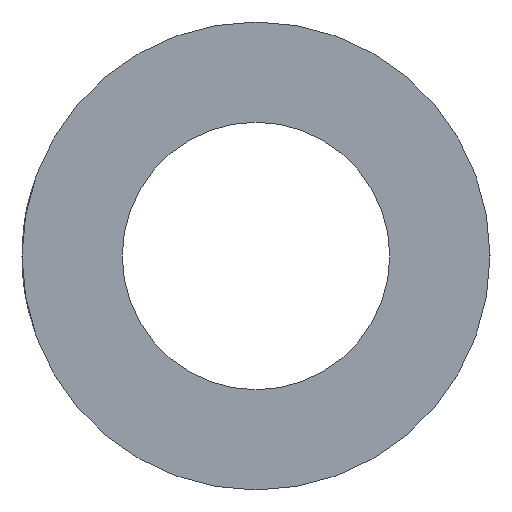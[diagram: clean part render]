
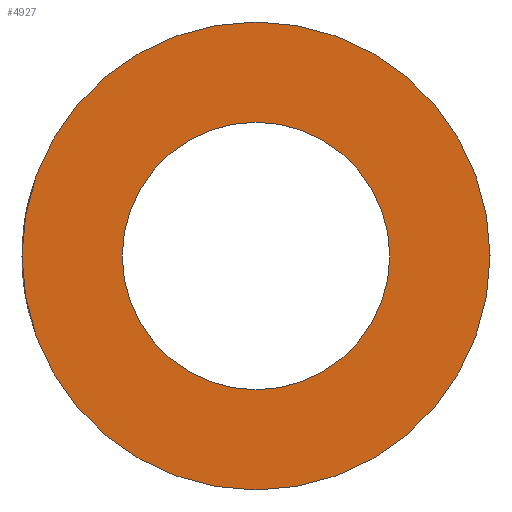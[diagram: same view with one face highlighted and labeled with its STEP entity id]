
A CAD part, left-side view. The second image highlights one B-rep face of the part: STEP entity #4927.
In plain terms, the highlighted planar face has unit normal (-1, 0, 0).
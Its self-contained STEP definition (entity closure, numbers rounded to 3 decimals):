
#114=PLANE('',#5310);
#338=CIRCLE('',#5309,14.);
#339=CIRCLE('',#5311,8.);
#1467=ORIENTED_EDGE('',*,*,#2953,.T.);
#1468=ORIENTED_EDGE('',*,*,#2952,.F.);
#2952=EDGE_CURVE('',#3695,#3695,#338,.T.);
#2953=EDGE_CURVE('',#3696,#3696,#339,.T.);
#3695=VERTEX_POINT('',#7705);
#3696=VERTEX_POINT('',#7708);
#4195=EDGE_LOOP('',(#1467));
#4196=EDGE_LOOP('',(#1468));
#4555=FACE_BOUND('',#4195,.T.);
#4556=FACE_BOUND('',#4196,.T.);
#4927=ADVANCED_FACE('',(#4555,#4556),#114,.F.);
#5309=AXIS2_PLACEMENT_3D('',#7704,#5814,#5815);
#5310=AXIS2_PLACEMENT_3D('',#7706,#5816,#5817);
#5311=AXIS2_PLACEMENT_3D('',#7707,#5818,#5819);
#5814=DIRECTION('',(1.,0.,0.));
#5815=DIRECTION('',(0.,0.,-1.));
#5816=DIRECTION('',(1.,0.,0.));
#5817=DIRECTION('',(0.,0.,-1.));
#5818=DIRECTION('',(1.,0.,0.));
#5819=DIRECTION('',(0.,0.,-1.));
#7704=CARTESIAN_POINT('',(-18.5,0.,0.));
#7705=CARTESIAN_POINT('',(-18.5,0.,-14.));
#7706=CARTESIAN_POINT('',(-18.5,0.,0.));
#7707=CARTESIAN_POINT('',(-18.5,0.,0.));
#7708=CARTESIAN_POINT('',(-18.5,0.,-8.));
